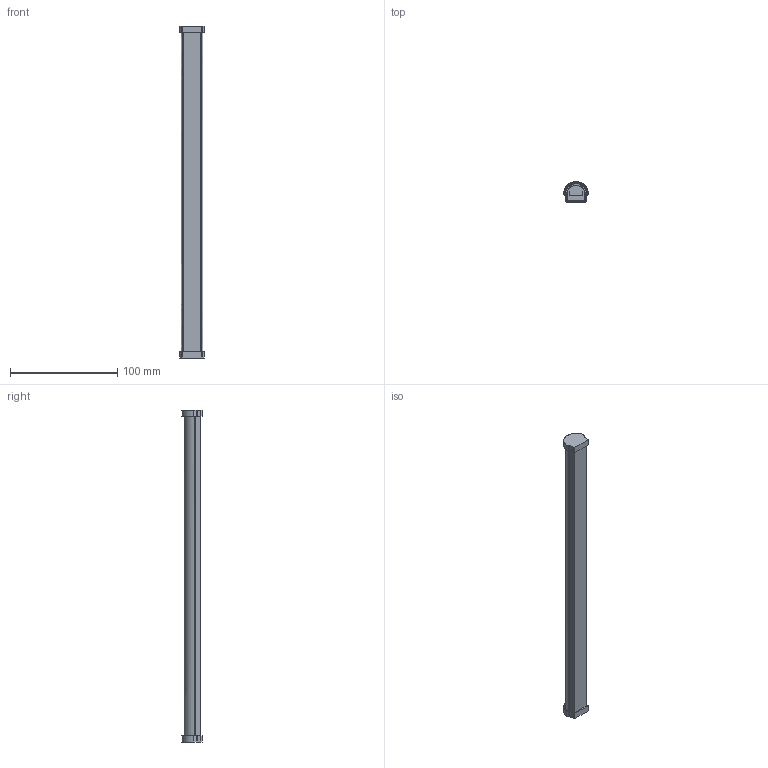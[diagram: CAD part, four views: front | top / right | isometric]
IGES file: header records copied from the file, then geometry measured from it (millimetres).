
Start section: SolidWorks IGES file using analytic representation for surfaces
Global section: file name: C:\Users\JoãoSantos\Desktop\02_3D.2D\01_2020\02_Linear\13_Limit\01_Limit\LIMIT_310.IGS; native system: SolidWorks 2020; preprocessor: SolidWorks 2020; author: JoãoSantos; date: 201023.143218; units: millimetre
Bounding box: 22.93 x 18.8 x 310 mm (x, y, z)
Surface area: 40119.7 mm2 (no closed solid volume)
Topology: 0 solids, 0 shells, 76 faces, 676 edges, 676 vertices
Faces by surface type: bspline 51, revolution 25
